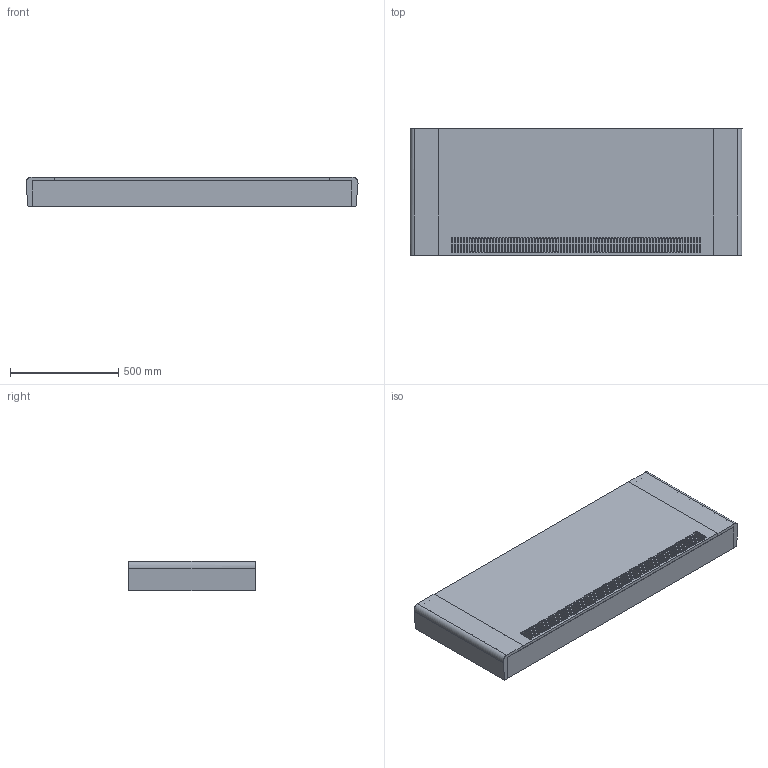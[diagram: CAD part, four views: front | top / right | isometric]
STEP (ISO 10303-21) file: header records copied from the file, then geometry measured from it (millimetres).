
FILE_DESCRIPTION (( 'STEP AP214' ), '1' );
FILE_NAME ('PFWSL_round_model05_4-pipe_v2.STEP', '2024-11-11T13:54:13', ( '' ), ( '' ), 'SwSTEP 2.0', 'SolidWorks 2023', '' );
FILE_SCHEMA (( 'AUTOMOTIVE_DESIGN' ));
Length unit declared in the file: inch
Products named in the file (1): PFWSL_round_model05_4-pipe_v2
Bounding box: 1533.48 x 582.61 x 134.94 mm (x, y, z)
Volume: 98027840.5 mm3; surface area: 4692026.5 mm2
Topology: 25 solids, 25 shells, 660 faces, 1764 edges, 1172 vertices
Faces by surface type: plane 388, cylinder 262, torus 8, bspline 2
Entity records: 21383 total; most frequent: CARTESIAN_POINT 3623, DIRECTION 3614, ORIENTED_EDGE 3528, EDGE_CURVE 1764, VECTOR 1224, LINE 1224, AXIS2_PLACEMENT_3D 1195, VERTEX_POINT 1172
